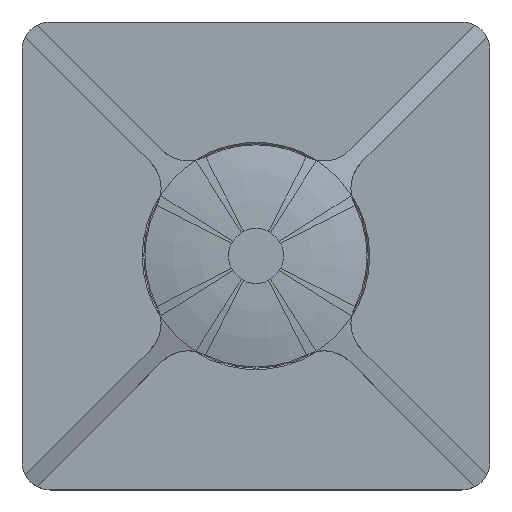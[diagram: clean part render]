
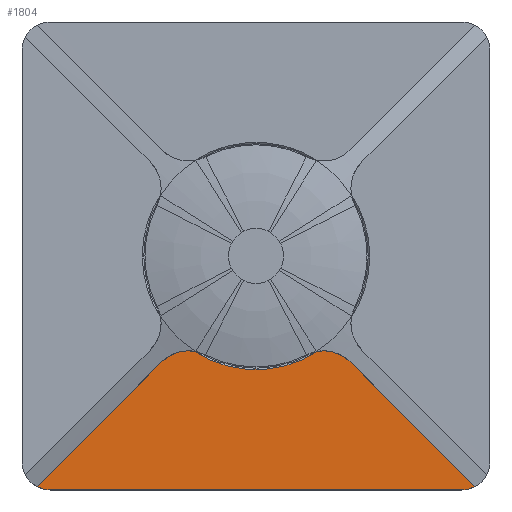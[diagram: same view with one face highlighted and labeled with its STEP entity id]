
A CAD part, top view. The second image highlights one B-rep face of the part: STEP entity #1804.
In plain terms, the highlighted planar face has unit normal (0, 0, 1).
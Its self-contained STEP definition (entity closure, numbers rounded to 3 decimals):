
#32=CARTESIAN_POINT('',(46.322,-48.796,7.001));
#363=CARTESIAN_POINT('',(-46.322,-48.796,7.001));
#364=CARTESIAN_POINT('',(-46.105,-48.912,7.001));
#365=CARTESIAN_POINT('',(-45.659,-49.114,6.999));
#366=CARTESIAN_POINT('',(-44.957,-49.336,7.));
#367=CARTESIAN_POINT('',(-44.234,-49.47,7.));
#368=CARTESIAN_POINT('',(-43.746,-49.5,7.));
#369=CARTESIAN_POINT('',(-43.5,-49.5,7.));
#371=DIRECTION('',(-0.707,-0.707,0.));
#372=VECTOR('',#371,37.305);
#373=CARTESIAN_POINT('',(-19.943,-22.417,7.));
#374=LINE('',#373,#372);
#375=CARTESIAN_POINT('',(-14.286,-28.074,7.));
#376=DIRECTION('',(0.,0.,1.));
#377=DIRECTION('',(0.147,0.989,0.));
#378=AXIS2_PLACEMENT_3D('',#375,#376,#377);
#380=CARTESIAN_POINT('',(0.,0.,7.));
#381=DIRECTION('',(0.,0.,-1.));
#382=DIRECTION('',(0.545,-0.838,0.));
#383=AXIS2_PLACEMENT_3D('',#380,#381,#382);
#385=CARTESIAN_POINT('',(14.286,-28.074,7.));
#386=DIRECTION('',(0.,0.,1.));
#387=DIRECTION('',(0.707,0.707,0.));
#388=AXIS2_PLACEMENT_3D('',#385,#386,#387);
#390=DIRECTION('',(-0.707,0.707,0.));
#391=VECTOR('',#390,37.305);
#392=CARTESIAN_POINT('',(46.322,-48.796,7.001));
#393=LINE('',#392,#391);
#394=CARTESIAN_POINT('',(43.5,-49.5,7.));
#395=CARTESIAN_POINT('',(43.746,-49.5,7.));
#396=CARTESIAN_POINT('',(44.234,-49.47,7.));
#397=CARTESIAN_POINT('',(44.957,-49.336,7.));
#398=CARTESIAN_POINT('',(45.659,-49.114,6.999));
#399=CARTESIAN_POINT('',(46.105,-48.912,7.001));
#400=CARTESIAN_POINT('',(46.322,-48.796,7.001));
#406=DIRECTION('',(-1.,0.,0.));
#407=VECTOR('',#406,87.);
#408=CARTESIAN_POINT('',(43.5,-49.5,7.));
#409=LINE('',#408,#407);
#566=CARTESIAN_POINT('',(-46.322,-48.796,7.001));
#1181=VERTEX_POINT('',#32);
#1190=VERTEX_POINT('',#566);
#1247=CARTESIAN_POINT('',(19.943,-22.417,7.));
#1248=VERTEX_POINT('',#1247);
#1249=CARTESIAN_POINT('',(43.5,-49.5,7.));
#1250=CARTESIAN_POINT('',(-43.5,-49.5,7.));
#1251=VERTEX_POINT('',#1249);
#1252=VERTEX_POINT('',#1250);
#1253=CARTESIAN_POINT('',(13.113,-20.161,7.));
#1254=VERTEX_POINT('',#1253);
#1255=CARTESIAN_POINT('',(-13.113,-20.161,7.));
#1256=CARTESIAN_POINT('',(-19.943,-22.417,7.));
#1257=VERTEX_POINT('',#1255);
#1258=VERTEX_POINT('',#1256);
#1785=CARTESIAN_POINT('',(0.,0.,7.));
#1786=DIRECTION('',(0.,0.,1.));
#1787=DIRECTION('',(-1.,0.,0.));
#1788=AXIS2_PLACEMENT_3D('',#1785,#1786,#1787);
#1789=PLANE('',#1788);
#1791=ORIENTED_EDGE('',*,*,#1790,.T.);
#1793=ORIENTED_EDGE('',*,*,#1792,.F.);
#1795=ORIENTED_EDGE('',*,*,#1794,.F.);
#1796=ORIENTED_EDGE('',*,*,#1695,.F.);
#1797=ORIENTED_EDGE('',*,*,#1717,.F.);
#1798=ORIENTED_EDGE('',*,*,#1750,.F.);
#1799=ORIENTED_EDGE('',*,*,#1779,.F.);
#1801=ORIENTED_EDGE('',*,*,#1800,.F.);
#1802=EDGE_LOOP('',(#1791,#1793,#1795,#1796,#1797,#1798,#1799,#1801));
#1803=FACE_OUTER_BOUND('',#1802,.F.);
#1804=ADVANCED_FACE('',(#1803),#1789,.T.);
#370=B_SPLINE_CURVE_WITH_KNOTS('',3,(#363,#364,#365,#366,#367,#368,#369),
.UNSPECIFIED.,.F.,.F.,(4,1,1,1,4),(0.,0.25,0.5,0.75,1.),
.UNSPECIFIED.);
#379=CIRCLE('',#378,8.);
#384=CIRCLE('',#383,24.05);
#389=CIRCLE('',#388,8.);
#401=B_SPLINE_CURVE_WITH_KNOTS('',3,(#394,#395,#396,#397,#398,#399,#400),
.UNSPECIFIED.,.F.,.F.,(4,1,1,1,4),(0.,0.25,0.5,0.75,1.),
.UNSPECIFIED.);
#1695=EDGE_CURVE('',#1257,#1258,#379,.T.);
#1717=EDGE_CURVE('',#1254,#1257,#384,.T.);
#1750=EDGE_CURVE('',#1248,#1254,#389,.T.);
#1779=EDGE_CURVE('',#1181,#1248,#393,.T.);
#1790=EDGE_CURVE('',#1251,#1252,#409,.T.);
#1792=EDGE_CURVE('',#1190,#1252,#370,.T.);
#1794=EDGE_CURVE('',#1258,#1190,#374,.T.);
#1800=EDGE_CURVE('',#1251,#1181,#401,.T.);
